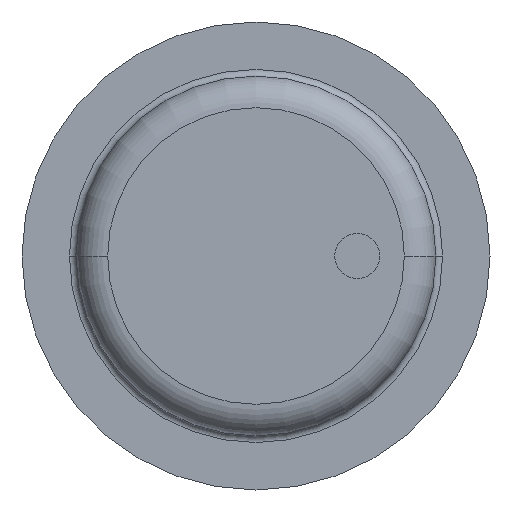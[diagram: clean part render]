
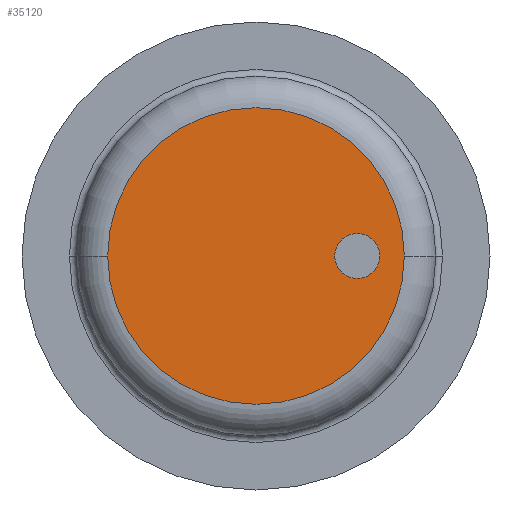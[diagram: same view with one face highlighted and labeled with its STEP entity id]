
A CAD part, front view. The second image highlights one B-rep face of the part: STEP entity #35120.
In plain terms, the highlighted planar face has unit normal (0, -1, 0).
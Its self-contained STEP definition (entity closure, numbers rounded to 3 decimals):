
#34580=CARTESIAN_POINT('',(145.93,-437.,0.));
#34590=VERTEX_POINT('',#34580);
#34620=CARTESIAN_POINT('',(80.,-437.,0.));
#34630=DIRECTION('',(0.,1.,0.));
#34640=DIRECTION('',(1.,0.,0.));
#34650=AXIS2_PLACEMENT_3D('',#34620,#34630,#34640);
#34660=CIRCLE('',#34650,65.93);
#34670=CARTESIAN_POINT('',(80.,-437.,65.93));
#34680=VERTEX_POINT('',#34670);
#34690=EDGE_CURVE('',#34680,#34590,#34660,.T.);
#34710=CARTESIAN_POINT('',(14.07,-437.,0.));
#34720=VERTEX_POINT('',#34710);
#34730=EDGE_CURVE('',#34720,#34680,#34660,.T.);
#34860=CARTESIAN_POINT('',(112.965,-437.,0.));
#34870=DIRECTION('',(0.,-1.,0.));
#34880=DIRECTION('',(-1.,0.,0.));
#34890=AXIS2_PLACEMENT_3D('',#34860,#34870,#34880);
#34900=PLANE('',#34890);
#34910=CARTESIAN_POINT('',(125.,-437.,0.));
#34920=DIRECTION('',(0.,1.,0.));
#34930=DIRECTION('',(1.,0.,0.));
#34940=AXIS2_PLACEMENT_3D('',#34910,#34920,#34930);
#34950=CIRCLE('',#34940,10.);
#34960=CARTESIAN_POINT('',(135.,-437.,0.));
#34970=VERTEX_POINT('',#34960);
#34980=CARTESIAN_POINT('',(115.,-437.,0.));
#34990=VERTEX_POINT('',#34980);
#35000=EDGE_CURVE('',#34970,#34990,#34950,.T.);
#35010=ORIENTED_EDGE('',*,*,#35000,.T.);
#35020=EDGE_CURVE('',#34990,#34970,#34950,.T.);
#35030=ORIENTED_EDGE('',*,*,#35020,.T.);
#35040=EDGE_LOOP('',(#35030,#35010));
#35050=FACE_BOUND('',#35040,.T.);
#35060=ORIENTED_EDGE('',*,*,#34690,.F.);
#35070=EDGE_CURVE('',#34590,#34720,#34660,.T.);
#35080=ORIENTED_EDGE('',*,*,#35070,.F.);
#35090=ORIENTED_EDGE('',*,*,#34730,.F.);
#35100=EDGE_LOOP('',(#35090,#35080,#35060));
#35110=FACE_OUTER_BOUND('',#35100,.T.);
#35120=ADVANCED_FACE('',(#35050,#35110),#34900,.T.);
